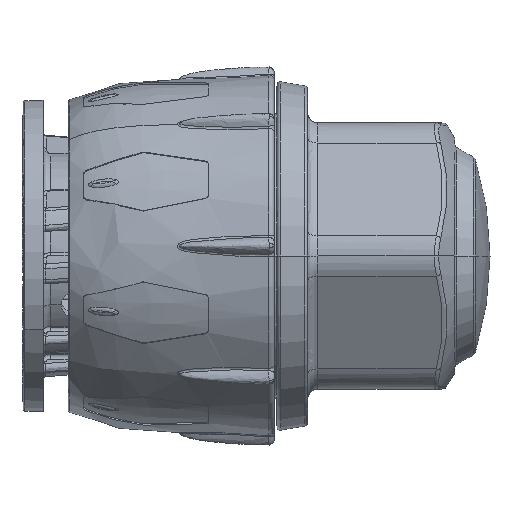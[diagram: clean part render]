
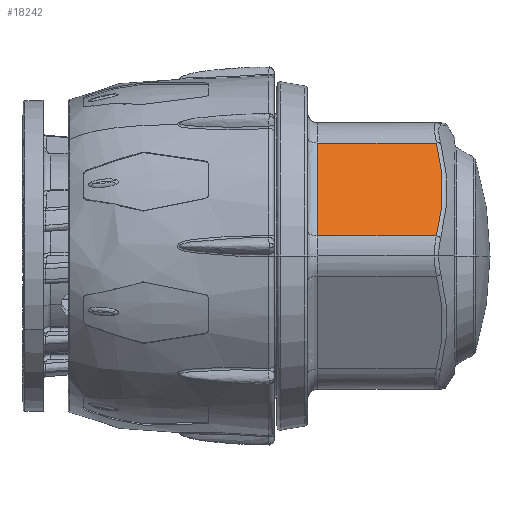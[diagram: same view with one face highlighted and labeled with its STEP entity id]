
A CAD part, front view. The second image highlights one B-rep face of the part: STEP entity #18242.
In plain terms, the highlighted planar face has unit normal (0, -0.866, 0.5).
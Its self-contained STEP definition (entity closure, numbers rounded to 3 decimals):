
#3611 = CARTESIAN_POINT ( 'NONE',  ( 1.051, -10.585, 8.167 ) ) ;
#3784 = CARTESIAN_POINT ( 'NONE',  ( 13.065, -9.246, 10.486 ) ) ;
#4781 = PLANE ( 'NONE',  #14927 ) ;
#6175 = ORIENTED_EDGE ( 'NONE', *, *, #65081, .T. ) ;
#8925 = EDGE_CURVE ( 'NONE', #25119, #42339, #23619, .T. ) ;
#9954 = CARTESIAN_POINT ( 'NONE',  ( 13.221, -9.69, 9.717 ) ) ;
#10561 = LINE ( 'NONE', #34161, #43907 ) ;
#11094 = CARTESIAN_POINT ( 'NONE',  ( 13.487, -11.931, 5.834 ) ) ;
#12875 = B_SPLINE_CURVE_WITH_KNOTS ( 'NONE', 3,
 ( #48910, #3611, #14135, #12992 ),
 .UNSPECIFIED., .F., .F.,
 ( 4, 4 ),
 ( 0., 0.011 ),
 .UNSPECIFIED. ) ;
#12992 = CARTESIAN_POINT ( 'NONE',  ( 1.029, -14.145, 2. ) ) ;
#14135 = CARTESIAN_POINT ( 'NONE',  ( 1.051, -12.365, 5.083 ) ) ;
#14927 = AXIS2_PLACEMENT_3D ( 'NONE', #15607, #38818, #39970 ) ;
#15365 = CARTESIAN_POINT ( 'NONE',  ( 12.868, -8.805, 11.25 ) ) ;
#15607 = CARTESIAN_POINT ( 'NONE',  ( 14.7, -7.65, 13.25 ) ) ;
#18242 = ADVANCED_FACE ( 'NONE', ( #21784 ), #4781, .F. ) ;
#19886 = ORIENTED_EDGE ( 'NONE', *, *, #8925, .T. ) ;
#21784 = FACE_OUTER_BOUND ( 'NONE', #74352, .T. ) ;
#22999 = ORIENTED_EDGE ( 'NONE', *, *, #69431, .T. ) ;
#23619 = LINE ( 'NONE', #41029, #28355 ) ;
#25119 = VERTEX_POINT ( 'NONE', #57129 ) ;
#28355 = VECTOR ( 'NONE', #35985, 1000. ) ;
#28909 = CARTESIAN_POINT ( 'NONE',  ( 13.064, -13.705, 2.763 ) ) ;
#30296 = CARTESIAN_POINT ( 'NONE',  ( 1.029, -14.145, 2. ) ) ;
#33178 = EDGE_CURVE ( 'NONE', #37703, #33609, #10561, .T. ) ;
#33609 = VERTEX_POINT ( 'NONE', #36230 ) ;
#34161 = CARTESIAN_POINT ( 'NONE',  ( 14.7, -14.145, 2. ) ) ;
#34315 = CARTESIAN_POINT ( 'NONE',  ( 13.475, -11.037, 7.384 ) ) ;
#34689 = CARTESIAN_POINT ( 'NONE',  ( 13.421, -10.588, 8.161 ) ) ;
#35985 = DIRECTION ( 'NONE',  ( -1., 0., 0. ) ) ;
#36230 = CARTESIAN_POINT ( 'NONE',  ( 12.868, -14.145, 2. ) ) ;
#37703 = VERTEX_POINT ( 'NONE', #30296 ) ;
#38818 = DIRECTION ( 'NONE',  ( 0., 0.866, -0.5 ) ) ;
#38953 = CARTESIAN_POINT ( 'NONE',  ( 12.868, -14.145, 2. ) ) ;
#39970 = DIRECTION ( 'NONE',  ( 0., 0.5, 0.866 ) ) ;
#40096 = ORIENTED_EDGE ( 'NONE', *, *, #33178, .T. ) ;
#40471 = CARTESIAN_POINT ( 'NONE',  ( 13.22, -13.263, 3.528 ) ) ;
#41029 = CARTESIAN_POINT ( 'NONE',  ( 14.7, -8.805, 11.25 ) ) ;
#42339 = VERTEX_POINT ( 'NONE', #44058 ) ;
#43907 = VECTOR ( 'NONE', #57647, 1000. ) ;
#44058 = CARTESIAN_POINT ( 'NONE',  ( 1.029, -8.805, 11.25 ) ) ;
#48910 = CARTESIAN_POINT ( 'NONE',  ( 1.029, -8.805, 11.25 ) ) ;
#51266 = CARTESIAN_POINT ( 'NONE',  ( 13.488, -11.261, 6.996 ) ) ;
#56663 = CARTESIAN_POINT ( 'NONE',  ( 13.431, -12.376, 5.063 ) ) ;
#57129 = CARTESIAN_POINT ( 'NONE',  ( 12.868, -8.805, 11.25 ) ) ;
#57647 = DIRECTION ( 'NONE',  ( 1., 0., 0. ) ) ;
#58186 = CARTESIAN_POINT ( 'NONE',  ( 13.381, -10.362, 8.552 ) ) ;
#65081 = EDGE_CURVE ( 'NONE', #42339, #37703, #12875, .T. ) ;
#69431 = EDGE_CURVE ( 'NONE', #33609, #25119, #73164, .T. ) ;
#73164 = B_SPLINE_CURVE_WITH_KNOTS ( 'NONE', 3,
 ( #38953, #28909, #40471, #56663, #11094, #51266, #34315, #34689, #58186, #9954, #3784, #15365 ),
 .UNSPECIFIED., .F., .F.,
 ( 4, 2, 2, 2, 2, 4 ),
 ( 0., 0.003, 0.005, 0.007, 0.008, 0.011 ),
 .UNSPECIFIED. ) ;
#74352 = EDGE_LOOP ( 'NONE', ( #40096, #22999, #19886, #6175 ) ) ;
